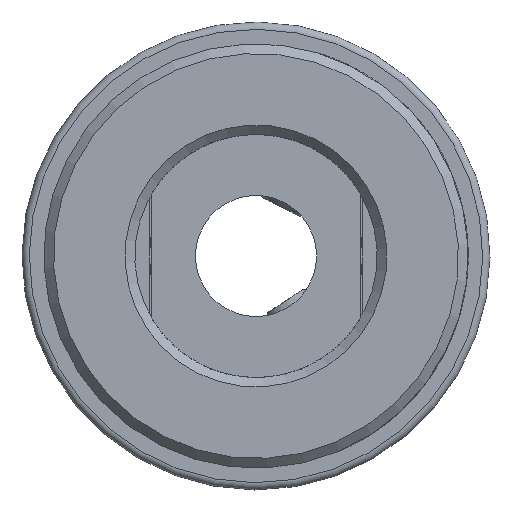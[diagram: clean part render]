
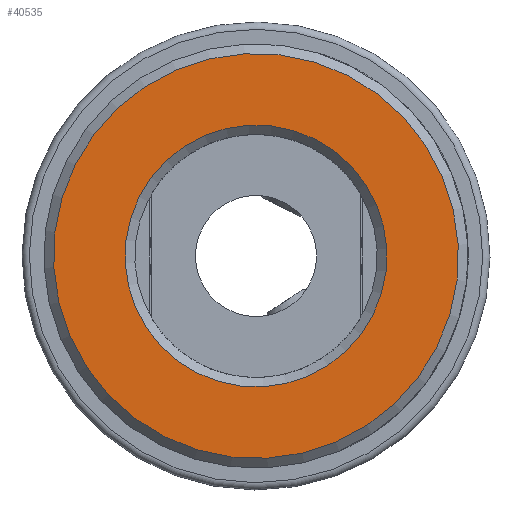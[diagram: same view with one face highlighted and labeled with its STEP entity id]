
A CAD part, front view. The second image highlights one B-rep face of the part: STEP entity #40535.
In plain terms, the highlighted planar face has unit normal (0, -1, 0).
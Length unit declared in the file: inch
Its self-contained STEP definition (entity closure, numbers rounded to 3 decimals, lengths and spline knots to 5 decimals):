
#40501=CARTESIAN_POINT('',(0.27,-0.11,0.));
#40502=VERTEX_POINT('',#40501);
#40503=CARTESIAN_POINT('',(0.,-0.11,0.0));
#40504=DIRECTION('',(0.0,-1.0,0.0));
#40505=DIRECTION('',(-1.0,0.0,0.0));
#40506=AXIS2_PLACEMENT_3D('',#40503,#40504,#40505);
#40507=CIRCLE('',#40506,0.27);
#40508=EDGE_CURVE('',#40502,#40502,#40507,.T.);
#40516=CARTESIAN_POINT('',(0.34375,-0.11,0.0));
#40517=DIRECTION('',(0.0,-1.0,0.0));
#40518=DIRECTION('',(0.0,0.0,-1.0));
#40519=AXIS2_PLACEMENT_3D('',#40516,#40517,#40518);
#40520=PLANE('',#40519);
#40521=CARTESIAN_POINT('',(0.4175,-0.11,0.));
#40522=VERTEX_POINT('',#40521);
#40523=CARTESIAN_POINT('',(0.,-0.11,0.0));
#40524=DIRECTION('',(0.0,1.0,0.0));
#40525=DIRECTION('',(-1.0,0.0,0.0));
#40526=AXIS2_PLACEMENT_3D('',#40523,#40524,#40525);
#40527=CIRCLE('',#40526,0.4175);
#40528=EDGE_CURVE('',#40522,#40522,#40527,.T.);
#40529=ORIENTED_EDGE('',*,*,#40528,.F.);
#40530=EDGE_LOOP('',(#40529));
#40531=FACE_OUTER_BOUND('',#40530,.T.);
#40532=ORIENTED_EDGE('',*,*,#40508,.F.);
#40533=EDGE_LOOP('',(#40532));
#40534=FACE_BOUND('',#40533,.T.);
#40535=ADVANCED_FACE('',(#40531,#40534),#40520,.T.);
